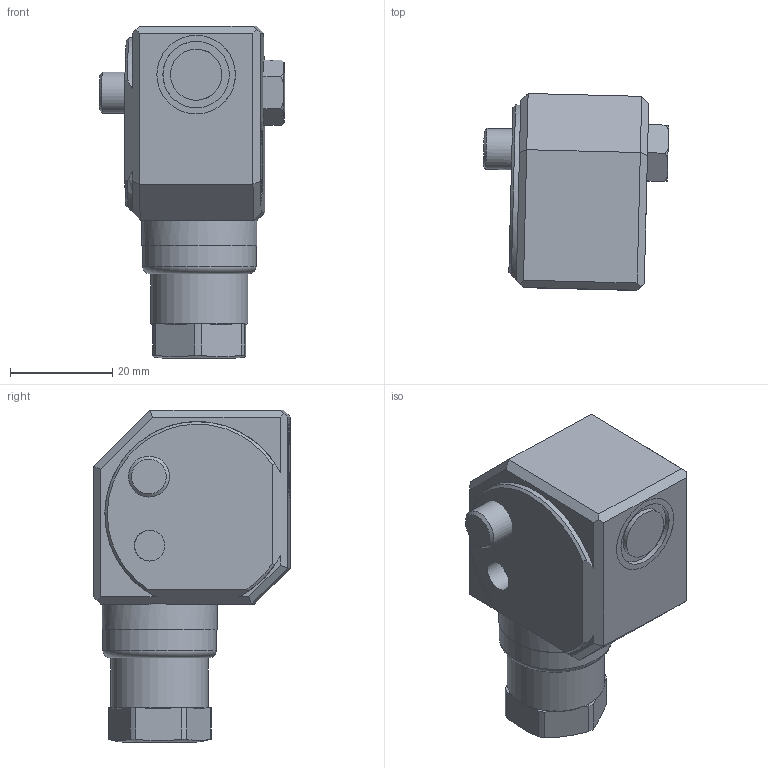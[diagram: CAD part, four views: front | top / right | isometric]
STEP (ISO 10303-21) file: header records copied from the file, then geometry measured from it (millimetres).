
FILE_DESCRIPTION(/* description */ (''),/* implementation_level */ '2;1');
FILE_NAME(/* name */ 'Z:\Engineering\Drawings\3D Library\Assemblies\Website\Triaxial Side\HS-173 PUR\HS-173XXX0108.stp',/* time_stamp */ '2023-03-25T20:42:56+00:00',/* author */ ('Ricardo.Peneda'),/* organization */ (''),/* preprocessor_version */ 'ST-DEVELOPER v18.1',/* originating_system */ 'Autodesk Inventor 2021',/* authorisation */ '');
FILE_SCHEMA (('AUTOMOTIVE_DESIGN { 1 0 10303 214 3 1 1 }'));
Length unit declared in the file: inch
Products named in the file (1): HS-173XXX0108_Shrinkwrap_1
Bounding box: 36.21 x 38.44 x 64.85 mm (x, y, z)
Volume: 29053 mm3; surface area: 16448.5 mm2
Topology: 6 solids, 6 shells, 124 faces, 315 edges, 224 vertices
Faces by surface type: plane 69, cylinder 37, cone 16, torus 1, bspline 1
Full cylindrical faces by diameter (mm): 4.5 x1, 6 x2, 7 x1, 8 x1, 10 x2, 10.109 x1, 12 x1, 13 x2, 13.109 x1, 14 x1, 14.95 x3, 15 x1, 15.109 x1, 15.34 x2, 15.35 x2, 16.109 x1, 18 x1, 19 x1, 19.95 x1, 20.23 x1, 22.2 x1, 22.43 x1
Entity records: 4095 total; most frequent: CARTESIAN_POINT 779, DIRECTION 699, ORIENTED_EDGE 630, EDGE_CURVE 315, AXIS2_PLACEMENT_3D 284, VERTEX_POINT 224, CIRCLE 154, EDGE_LOOP 151
